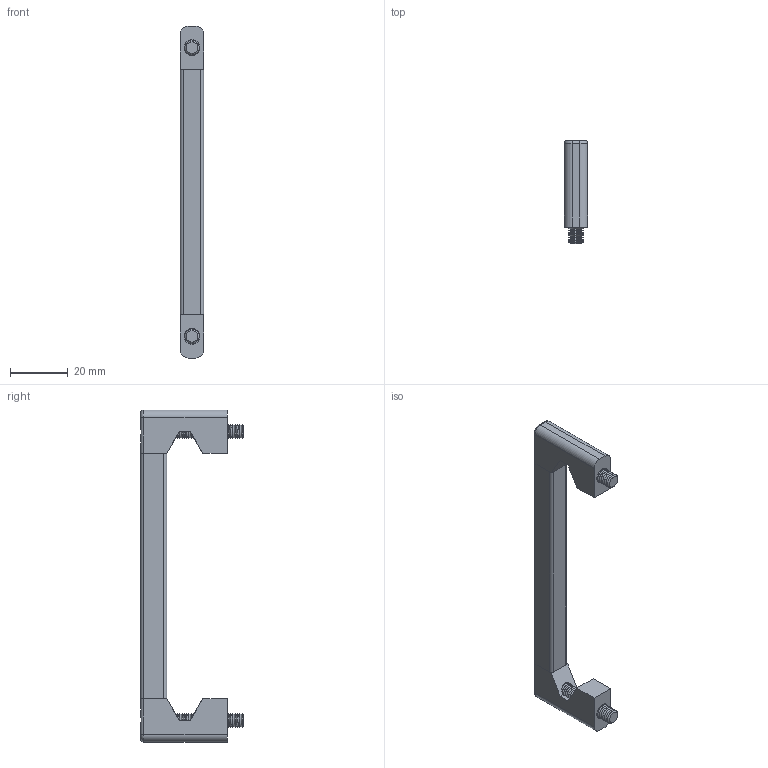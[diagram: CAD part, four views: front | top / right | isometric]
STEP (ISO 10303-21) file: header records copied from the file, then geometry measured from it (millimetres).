
FILE_DESCRIPTION (( 'STEP AP203' ), '1' );
FILE_NAME ('79350.W0300-4.step', '2018-04-28T14:56:27', ( '' ), ( '' ), 'SwSTEP 2.0', 'SolidWorks 2017', '' );
FILE_SCHEMA (( 'CONFIG_CONTROL_DESIGN' ));
Length unit declared in the file: millimetre
Products named in the file (4): 79350.W0300-4; SHCS_1_M5x45; Part3_79350.W0300-4; Part2
Assembly tree (5 placements, depth 2):
  79350.W0300-4
    Part3_79350.W0300-4
    Part2  x2
    SHCS_1_M5x45  x2
Bounding box: 8 x 35.5 x 115 mm (x, y, z)
Volume: 11386.2 mm3; surface area: 9359.1 mm2
Topology: 5 solids, 5 shells, 388 faces, 842 edges, 462 vertices
Faces by surface type: cone 264, plane 76, cylinder 44, torus 4
Entity records: 5931 total; most frequent: DIRECTION 1047, CARTESIAN_POINT 931, ORIENTED_EDGE 886, EDGE_CURVE 443, AXIS2_PLACEMENT_3D 399, VECTOR 249, LINE 249, VERTEX_POINT 247
